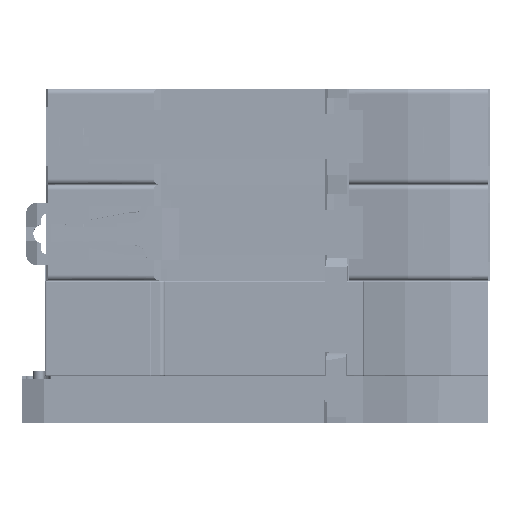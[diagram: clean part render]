
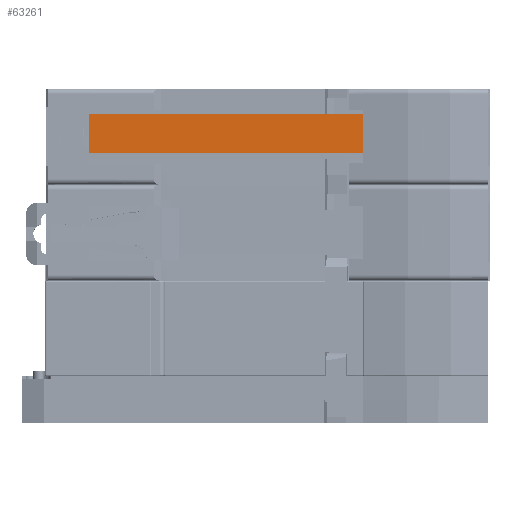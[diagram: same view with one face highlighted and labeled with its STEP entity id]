
A CAD part, front view. The second image highlights one B-rep face of the part: STEP entity #63261.
In plain terms, the highlighted planar face has unit normal (0, -1, 0).
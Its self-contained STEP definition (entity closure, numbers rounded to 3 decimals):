
#9279 = CARTESIAN_POINT ( 'NONE',  ( -3.938, 3.207, 8.4 ) ) ;
#9626 = EDGE_CURVE ( 'NONE', #82694, #48594, #61217, .T. ) ;
#11034 = CARTESIAN_POINT ( 'NONE',  ( -36.661, 3.207, 1.315 ) ) ;
#12627 = DIRECTION ( 'NONE',  ( 0.009, 0., -1. ) ) ;
#15424 = EDGE_CURVE ( 'NONE', #40398, #221187, #253482, .T. ) ;
#28144 = CARTESIAN_POINT ( 'NONE',  ( -3.876, 3.207, 1.315 ) ) ;
#30943 = EDGE_LOOP ( 'NONE', ( #128044, #207920, #109985, #106542, #139778, #108563 ) ) ;
#32987 = VERTEX_POINT ( 'NONE', #128233 ) ;
#40398 = VERTEX_POINT ( 'NONE', #129863 ) ;
#48594 = VERTEX_POINT ( 'NONE', #235040 ) ;
#49411 = LINE ( 'NONE', #199435, #231619 ) ;
#52444 = DIRECTION ( 'NONE',  ( 1., 0., 0. ) ) ;
#54858 = VECTOR ( 'NONE', #246044, 1000. ) ;
#61122 = LINE ( 'NONE', #124585, #54858 ) ;
#61217 = LINE ( 'NONE', #142823, #163091 ) ;
#63261 = ADVANCED_FACE ( 'NONE', ( #238529 ), #161665, .F. ) ;
#66854 = VECTOR ( 'NONE', #12627, 1000. ) ;
#81274 = DIRECTION ( 'NONE',  ( -1., 0., 0. ) ) ;
#82694 = VERTEX_POINT ( 'NONE', #119172 ) ;
#90818 = EDGE_CURVE ( 'NONE', #40398, #32987, #49411, .T. ) ;
#97691 = DIRECTION ( 'NONE',  ( 1., 0., 0. ) ) ;
#106542 = ORIENTED_EDGE ( 'NONE', *, *, #232483, .T. ) ;
#108563 = ORIENTED_EDGE ( 'NONE', *, *, #15424, .T. ) ;
#109985 = ORIENTED_EDGE ( 'NONE', *, *, #9626, .F. ) ;
#119172 = CARTESIAN_POINT ( 'NONE',  ( -54.111, 3.207, 1.315 ) ) ;
#122463 = VERTEX_POINT ( 'NONE', #9279 ) ;
#124585 = CARTESIAN_POINT ( 'NONE',  ( -135.966, 3.207, 8.4 ) ) ;
#128044 = ORIENTED_EDGE ( 'NONE', *, *, #240779, .F. ) ;
#128233 = CARTESIAN_POINT ( 'NONE',  ( -51.258, 3.207, 1.315 ) ) ;
#129863 = CARTESIAN_POINT ( 'NONE',  ( -47.196, 3.207, 1.315 ) ) ;
#139778 = ORIENTED_EDGE ( 'NONE', *, *, #90818, .F. ) ;
#141101 = DIRECTION ( 'NONE',  ( 0., 0., 1. ) ) ;
#142823 = CARTESIAN_POINT ( 'NONE',  ( -54.111, 3.207, -20.282 ) ) ;
#161665 = PLANE ( 'NONE',  #187259 ) ;
#163091 = VECTOR ( 'NONE', #141101, 1000. ) ;
#164208 = CARTESIAN_POINT ( 'NONE',  ( -135.966, 3.207, -20.282 ) ) ;
#173377 = EDGE_CURVE ( 'NONE', #48594, #122463, #61122, .T. ) ;
#178023 = LINE ( 'NONE', #190521, #66854 ) ;
#183230 = DIRECTION ( 'NONE',  ( 1., 0., 0. ) ) ;
#187259 = AXIS2_PLACEMENT_3D ( 'NONE', #164208, #220190, #183230 ) ;
#190521 = CARTESIAN_POINT ( 'NONE',  ( -3.938, 3.207, 8.4 ) ) ;
#199435 = CARTESIAN_POINT ( 'NONE',  ( -135.966, 3.207, 1.315 ) ) ;
#207920 = ORIENTED_EDGE ( 'NONE', *, *, #173377, .F. ) ;
#214884 = CARTESIAN_POINT ( 'NONE',  ( -36.661, 3.207, 1.315 ) ) ;
#220190 = DIRECTION ( 'NONE',  ( 0., 1., 0. ) ) ;
#221187 = VERTEX_POINT ( 'NONE', #28144 ) ;
#228613 = VECTOR ( 'NONE', #97691, 1000. ) ;
#231619 = VECTOR ( 'NONE', #81274, 1000. ) ;
#232483 = EDGE_CURVE ( 'NONE', #82694, #32987, #251430, .T. ) ;
#235040 = CARTESIAN_POINT ( 'NONE',  ( -54.111, 3.207, 8.4 ) ) ;
#238529 = FACE_OUTER_BOUND ( 'NONE', #30943, .T. ) ;
#240779 = EDGE_CURVE ( 'NONE', #122463, #221187, #178023, .T. ) ;
#242282 = VECTOR ( 'NONE', #52444, 1000. ) ;
#246044 = DIRECTION ( 'NONE',  ( 1., 0., 0. ) ) ;
#251430 = LINE ( 'NONE', #11034, #242282 ) ;
#253482 = LINE ( 'NONE', #214884, #228613 ) ;
